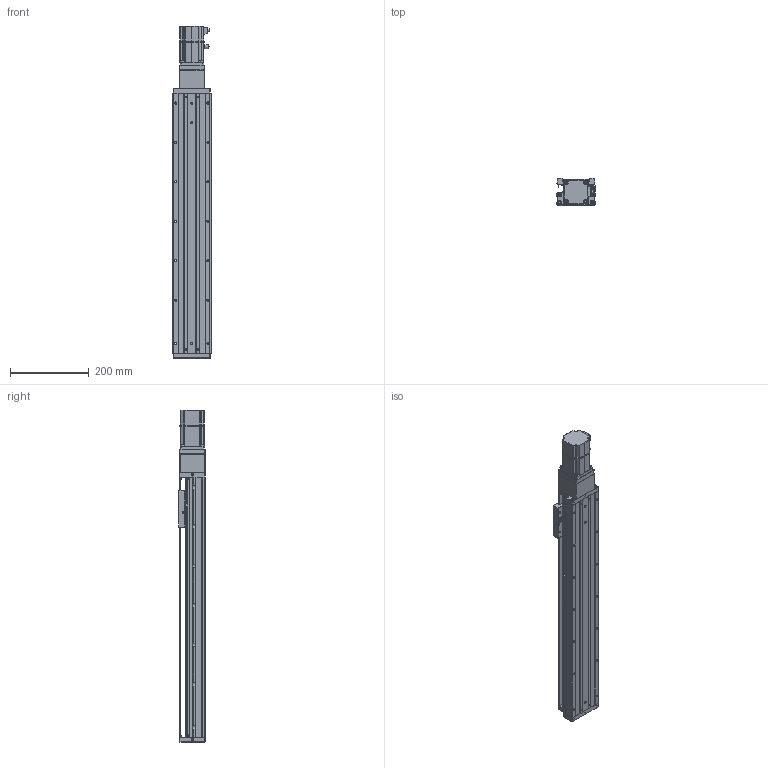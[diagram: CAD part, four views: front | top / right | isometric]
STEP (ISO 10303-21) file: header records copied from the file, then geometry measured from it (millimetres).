
FILE_DESCRIPTION (( 'STEP AP203' ), '1' );
FILE_NAME ('KTHA100-500-BC-M20-C4L.step', '2022-04-26T01:44:44', ( '微软用户' ), ( '微软中国' ), 'SwSTEP 2.0', 'SolidWorks 2020', '' );
FILE_SCHEMA (( 'CONFIG_CONTROL_DESIGN' ));
Length unit declared in the file: millimetre
Products named in the file (18): KTHA100-005; GBT70.1 M5℅16; KTHA100-500-BC-M20-C4L; GB¨uT 70.2-M3¡Á5_M3¡Á6; CTHA60-016; EE_SX911P_R; GBT 70.3-M3℅6; CTHA60-017; _X2_4E0983F1_X0_200W_1; KTHA100-001_660; CTHA60-021; CTHA86-013; KTHA100-002; GBT77-2000 M3×3; CTHA86-027; KTHA100-004; GBT 70.1-M3℅6; CTHA86-006-1_CTHA86-006-2
Assembly tree (56 placements, depth 2):
  KTHA100-500-BC-M20-C4L
    KTHA100-001_660
    KTHA100-002
    KTHA100-004
    KTHA100-005
    GB¨uT 70.2-M3¡Á5_M3¡Á6  x6
    EE_SX911P_R  x3
    CTHA60-017  x3
    CTHA60-021  x2
    GBT77-2000 M3×3  x6
    GBT 70.1-M3℅6  x6
    GBT70.1 M5℅16  x14
    CTHA60-016  x2
    GBT 70.3-M3℅6  x6
    _X2_4E0983F1_X0_200W_1
    CTHA86-013
    CTHA86-027
    CTHA86-006-1_CTHA86-006-2
Bounding box: 98.82 x 68 x 842.5 mm (x, y, z)
Volume: 3169884.4 mm3; surface area: 534447.8 mm2
Topology: 59 solids, 59 shells, 2387 faces, 5688 edges, 3508 vertices
Faces by surface type: plane 1215, cylinder 655, cone 328, torus 104, bspline 69, sphere 16
Entity records: 40952 total; most frequent: CARTESIAN_POINT 7863, DIRECTION 6439, ORIENTED_EDGE 6144, EDGE_CURVE 3072, AXIS2_PLACEMENT_3D 2256, VECTOR 1927, LINE 1927, VERTEX_POINT 1926
